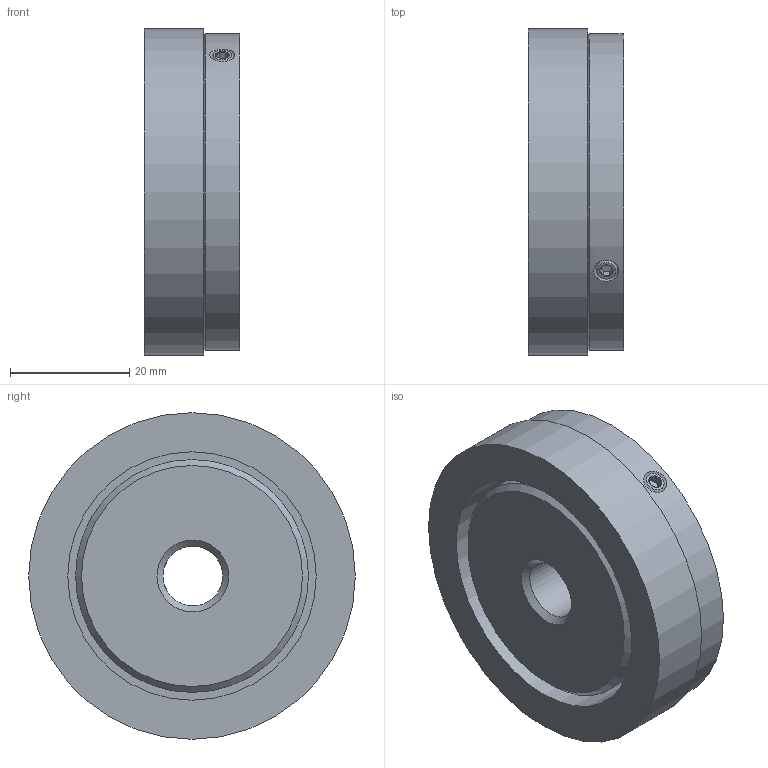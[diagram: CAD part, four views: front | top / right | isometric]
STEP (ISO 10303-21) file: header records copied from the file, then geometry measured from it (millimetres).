
FILE_DESCRIPTION (( 'STEP AP203' ), '1' );
FILE_NAME ('8.RI50.055.1000.112.STEP', '2013-07-17T13:24:08', ( 'Hodot' ), ( '' ), 'SwSTEP 2.0', 'SolidWorks 2012', '' );
FILE_SCHEMA (( 'CONFIG_CONTROL_DESIGN' ));
Length unit declared in the file: millimetre
Products named in the file (1): 8.RI50.055.1000.112
Bounding box: 16 x 54.7 x 54.7 mm (x, y, z)
Volume: 32704.6 mm3; surface area: 12371.7 mm2
Topology: 4 solids, 4 shells, 54 faces, 104 edges, 60 vertices
Faces by surface type: cone 23, plane 22, cylinder 9
Full cylindrical faces by diameter (mm): 3.3 x2, 4 x2, 10 x1, 39 x1, 41.6 x1, 53 x1, 54.7 x1
Entity records: 1521 total; most frequent: CARTESIAN_POINT 481, DIRECTION 206, ORIENTED_EDGE 152, AXIS2_PLACEMENT_3D 91, EDGE_LOOP 84, EDGE_CURVE 76, FACE_OUTER_BOUND 63, ADVANCED_FACE 54
